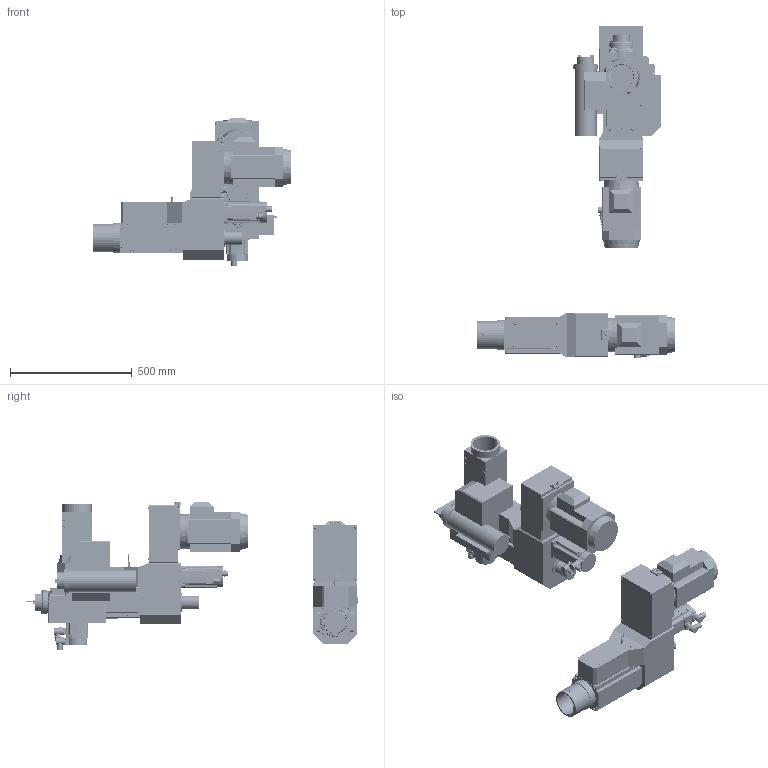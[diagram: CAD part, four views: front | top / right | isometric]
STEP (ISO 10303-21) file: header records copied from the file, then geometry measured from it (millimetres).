
FILE_DESCRIPTION( ( 'STEP AP203' ), '1' );
FILE_NAME( 'C:/Documents and Settings/Saverio/Desktop/disegni ironcad/unità serie 2/FMT 232 CN/FMT 232 CN_ISO30.stp', '2013-11-28T08:50:05', ( ' ' ), ( ' ' ), 'XStep 1.0', ' ', ' ' );
FILE_SCHEMA( ( 'CONFIG_CONTROL_DESIGN' ) );
Length unit declared in the file: metre
Products named in the file (45): Assem1; Assem2; Assem3; 1; 2; 3; 4; 5; 6; 7; 8; 9; 10; 11; 12; 13; 14; 15; 16; 17; 18; 19; 20; 21; 22; 23; 24; 25; 26; 27; 28; 29; 30; 31; 32; 33; 34; 35; 36; 37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
Bounding box: 814.5 x 1362.82 x 609 mm (x, y, z)
Volume: 84201236.6 mm3; surface area: 5419873.4 mm2
Topology: 152 solids, 155 shells, 5148 faces, 12606 edges, 8168 vertices
Faces by surface type: plane 2618, cylinder 1693, cone 652, torus 113, bspline 72
Full cylindrical faces by diameter (mm): 1 x18, 2 x12, 3 x6, 4 x23, 4.2 x15, 4.5 x48, 4.918 x6, 5 x33, 5.5 x12, 6 x36, 6.5 x9, 7 x53, 7.4 x24, 8 x39, 8.5 x24, 9.87 x3, 10 x15, 10.5 x6, 12 x3, 13 x9, 13.5 x24, 17.4 x3, 18.3 x3, 19 x3, 19.2 x3, 20 x21, 21.7 x6, 22.7 x6, 25 x3, 26.7 x6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
Entity records: 49297 total; most frequent: CARTESIAN_POINT 11559, DIRECTION 7540, ORIENTED_EDGE 6748, EDGE_CURVE 3374, AXIS2_PLACEMENT_3D 2903, VERTEX_POINT 2413, EDGE_LOOP 2176, FACE_OUTER_BOUND 1799
